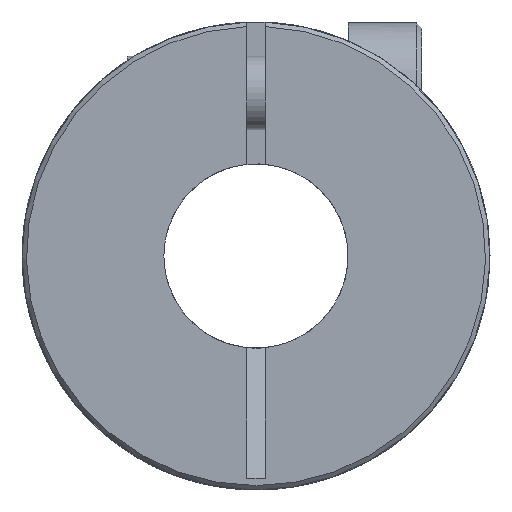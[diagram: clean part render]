
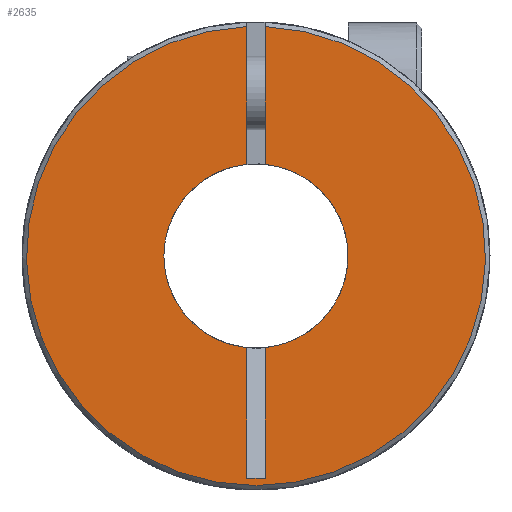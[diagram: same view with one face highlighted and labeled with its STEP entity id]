
A CAD part, front view. The second image highlights one B-rep face of the part: STEP entity #2635.
In plain terms, the highlighted planar face has unit normal (0, -1, 0).
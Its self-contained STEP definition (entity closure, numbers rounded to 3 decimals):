
#1=DIRECTION('',(0.,0.,-1.));
#2=VECTOR('',#1,3.738);
#3=CARTESIAN_POINT('',(-0.25,-9.55,6.225));
#4=LINE('',#3,#2);
#5=CARTESIAN_POINT('',(0.,-9.55,0.));
#6=DIRECTION('',(0.,1.,0.));
#7=DIRECTION('',(-1.,0.,0.));
#8=AXIS2_PLACEMENT_3D('',#5,#6,#7);
#10=CARTESIAN_POINT('',(0.,-9.55,0.));
#11=DIRECTION('',(0.,1.,0.));
#12=DIRECTION('',(-0.1,0.,-0.995));
#13=AXIS2_PLACEMENT_3D('',#10,#11,#12);
#15=DIRECTION('',(0.,0.,-1.));
#16=VECTOR('',#15,3.545);
#17=CARTESIAN_POINT('',(-0.25,-9.55,-2.487));
#18=LINE('',#17,#16);
#19=DIRECTION('',(1.,0.,0.));
#20=VECTOR('',#19,0.5);
#21=CARTESIAN_POINT('',(-0.25,-9.55,-6.032));
#22=LINE('',#21,#20);
#23=DIRECTION('',(0.,0.,-1.));
#24=VECTOR('',#23,3.545);
#25=CARTESIAN_POINT('',(0.25,-9.55,-2.487));
#26=LINE('',#25,#24);
#27=DIRECTION('',(0.,0.,-1.));
#28=VECTOR('',#27,3.738);
#29=CARTESIAN_POINT('',(0.25,-9.55,6.225));
#30=LINE('',#29,#28);
#54=CARTESIAN_POINT('',(0.,-9.55,0.));
#55=DIRECTION('',(0.,1.,0.));
#56=DIRECTION('',(0.1,0.,0.995));
#57=AXIS2_PLACEMENT_3D('',#54,#55,#56);
#2189=CARTESIAN_POINT('',(0.,-9.55,0.));
#2190=DIRECTION('',(0.,-1.,0.));
#2191=DIRECTION('',(-0.04,0.,0.999));
#2192=AXIS2_PLACEMENT_3D('',#2189,#2190,#2191);
#2350=CARTESIAN_POINT('',(-2.5,-9.55,0.));
#2351=VERTEX_POINT('',#2350);
#2425=CARTESIAN_POINT('',(-0.25,-9.55,-6.032));
#2427=VERTEX_POINT('',#2425);
#2429=CARTESIAN_POINT('',(0.25,-9.55,-6.032));
#2431=VERTEX_POINT('',#2429);
#2482=CARTESIAN_POINT('',(-0.25,-9.55,6.225));
#2483=CARTESIAN_POINT('',(-0.25,-9.55,2.487));
#2484=VERTEX_POINT('',#2482);
#2485=VERTEX_POINT('',#2483);
#2486=CARTESIAN_POINT('',(-0.25,-9.55,-2.487));
#2487=VERTEX_POINT('',#2486);
#2488=CARTESIAN_POINT('',(0.25,-9.55,6.225));
#2489=CARTESIAN_POINT('',(0.25,-9.55,2.487));
#2490=VERTEX_POINT('',#2488);
#2491=VERTEX_POINT('',#2489);
#2492=CARTESIAN_POINT('',(0.25,-9.55,-2.487));
#2493=VERTEX_POINT('',#2492);
#2610=CARTESIAN_POINT('',(0.,-9.55,0.));
#2611=DIRECTION('',(0.,1.,0.));
#2612=DIRECTION('',(1.,0.,0.));
#2613=AXIS2_PLACEMENT_3D('',#2610,#2611,#2612);
#2614=PLANE('',#2613);
#2616=ORIENTED_EDGE('',*,*,#2615,.T.);
#2618=ORIENTED_EDGE('',*,*,#2617,.F.);
#2620=ORIENTED_EDGE('',*,*,#2619,.F.);
#2622=ORIENTED_EDGE('',*,*,#2621,.T.);
#2624=ORIENTED_EDGE('',*,*,#2623,.T.);
#2626=ORIENTED_EDGE('',*,*,#2625,.F.);
#2628=ORIENTED_EDGE('',*,*,#2627,.F.);
#2630=ORIENTED_EDGE('',*,*,#2629,.F.);
#2632=ORIENTED_EDGE('',*,*,#2631,.F.);
#2633=EDGE_LOOP('',(#2616,#2618,#2620,#2622,#2624,#2626,#2628,#2630,#2632));
#2634=FACE_OUTER_BOUND('',#2633,.F.);
#2635=ADVANCED_FACE('',(#2634),#2614,.F.);
#9=CIRCLE('',#8,2.5);
#14=CIRCLE('',#13,2.5);
#58=CIRCLE('',#57,2.5);
#2193=CIRCLE('',#2192,6.23);
#2615=EDGE_CURVE('',#2484,#2485,#4,.T.);
#2617=EDGE_CURVE('',#2351,#2485,#9,.T.);
#2619=EDGE_CURVE('',#2487,#2351,#14,.T.);
#2621=EDGE_CURVE('',#2487,#2427,#18,.T.);
#2623=EDGE_CURVE('',#2427,#2431,#22,.T.);
#2625=EDGE_CURVE('',#2493,#2431,#26,.T.);
#2627=EDGE_CURVE('',#2491,#2493,#58,.T.);
#2629=EDGE_CURVE('',#2490,#2491,#30,.T.);
#2631=EDGE_CURVE('',#2484,#2490,#2193,.T.);
